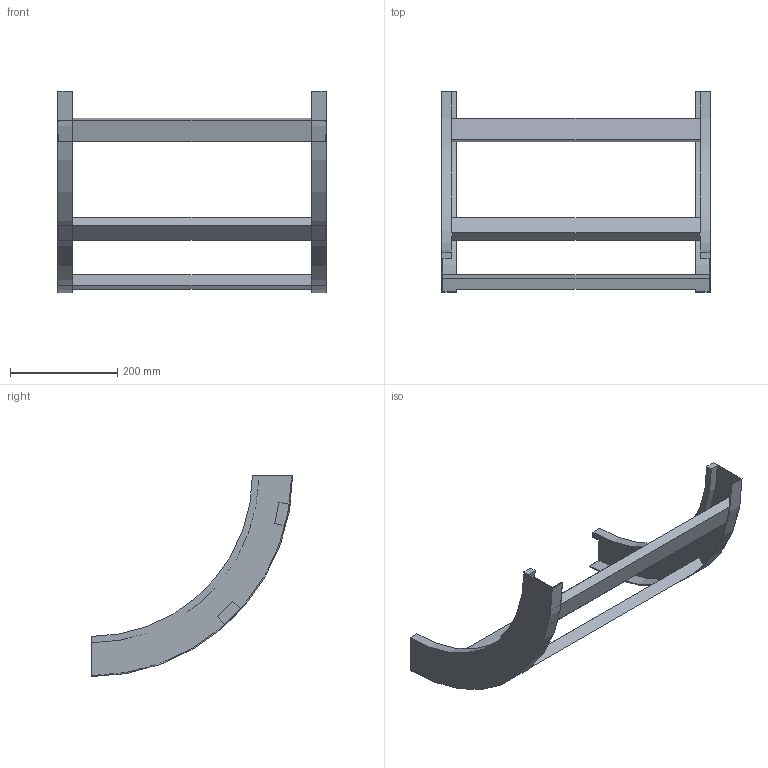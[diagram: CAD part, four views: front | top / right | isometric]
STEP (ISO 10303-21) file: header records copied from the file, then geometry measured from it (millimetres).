
FILE_DESCRIPTION (( 'STEP AP214' ), '1' );
FILE_NAME ('B2X30B3C500XX.step', '2025-03-20T10:25:23', ( '' ), ( '' ), 'SwSTEP 2.0', 'SolidWorks 2023', '' );
FILE_SCHEMA (( 'AUTOMOTIVE_DESIGN' ));
Length unit declared in the file: millimetre
Products named in the file (3): TRAVERSINO_500; B2_LONGH.SALITA_90°_H75_R300; B2X30B3C500XX
Assembly tree (5 placements, depth 2):
  B2X30B3C500XX
    B2_LONGH.SALITA_90°_H75_R300  x2
    TRAVERSINO_500  x3
Bounding box: 500 x 375 x 375 mm (x, y, z)
Volume: 1607645.8 mm3; surface area: 439270.5 mm2
Topology: 5 solids, 5 shells, 38 faces, 84 edges, 56 vertices
Faces by surface type: plane 30, cylinder 8
Entity records: 560 total; most frequent: DIRECTION 92, CARTESIAN_POINT 84, ORIENTED_EDGE 72, EDGE_CURVE 36, AXIS2_PLACEMENT_3D 32, VECTOR 28, LINE 28, VERTEX_POINT 24
